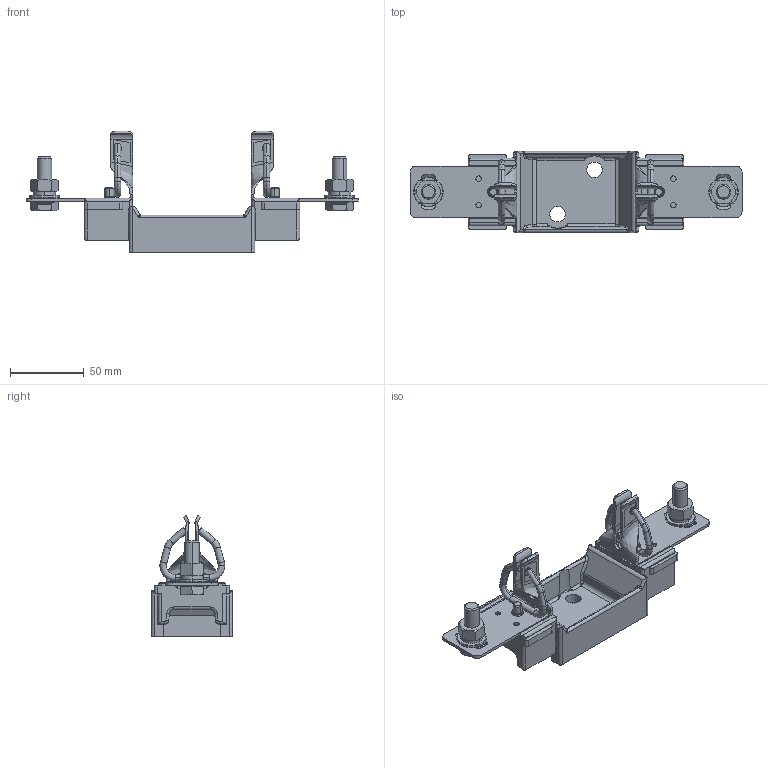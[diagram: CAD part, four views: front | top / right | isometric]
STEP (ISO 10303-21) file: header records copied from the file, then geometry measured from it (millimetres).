
FILE_DESCRIPTION (( 'STEP AP214' ), '1' );
FILE_NAME ('_880039.STEP', '2025-01-29T12:56:06', ( '' ), ( '' ), 'SwSTEP 2.0', 'SolidWorks 2015', '' );
FILE_SCHEMA (( 'AUTOMOTIVE_DESIGN' ));
Length unit declared in the file: millimetre
Products named in the file (10): Podlozka_CSN_021702_6_4_3112102021_-_0; _880039; 000038; Matice_ISO4032_M10_3111200060_-_0; Podlozka_CSN_021740_10_3112140112_-_0; 476007_Y00; 523345_Z00; na010199; Sroub_ISO_4017_M10x30_NA009944_-_0; 561129_Z00-s
Assembly tree (17 placements, depth 2):
  _880039
    523345_Z00
    561129_Z00-s  x2
    476007_Y00  x2
    Podlozka_CSN_021702_6_4_3112102021_-_0  x2
    na010199  x2
    Sroub_ISO_4017_M10x30_NA009944_-_0  x2
    000038  x2
    Podlozka_CSN_021740_10_3112140112_-_0  x2
    Matice_ISO4032_M10_3111200060_-_0  x2
Bounding box: 225 x 55 x 82.5 mm (x, y, z)
Volume: 104743.5 mm3; surface area: 67111.8 mm2
Topology: 19 solids, 19 shells, 938 faces, 2272 edges, 1376 vertices
Faces by surface type: cylinder 373, plane 342, cone 74, torus 71, bspline 62, sphere 16
Entity records: 22135 total; most frequent: CARTESIAN_POINT 6622, ORIENTED_EDGE 3186, DIRECTION 3134, EDGE_CURVE 1593, AXIS2_PLACEMENT_3D 1173, VERTEX_POINT 977, VECTOR 788, LINE 788
